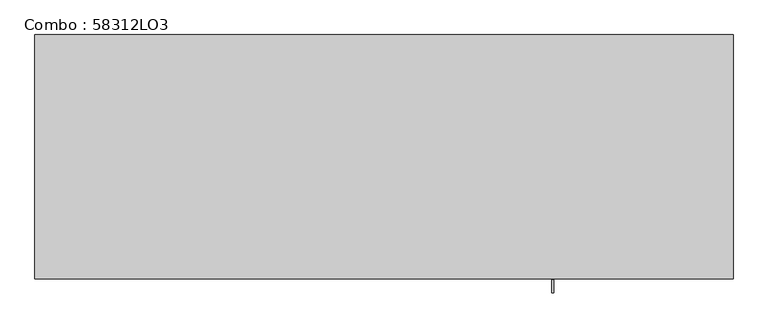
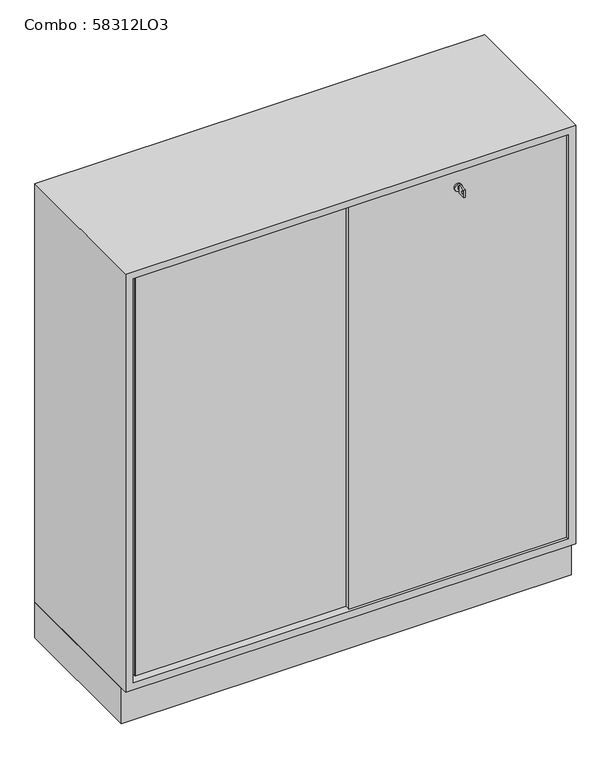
"""IFC4 building model written with IfcOpenShell, lengths in millimetres: furniture geometry, Combo : 58312LO3."""

from ifc_helpers import new_model, si_unit, point, frame, frame_2d, origin, origin_with_axes, place, context, project, spatial, polyline, circle_curve, trimmed, segment, composite_curve, outline, extrude, faceted_brep, source, transform, mapped, element, save


def combo_58312lo3_2c3f5c58(model_context):
    return source(origin(), model_context, "Body", "SolidModel", [
        extrude(outline(polyline([(-600.0, -400.0), (-600.0, 0.0), (600.0, 0.0), (600.0, -400.0), (-600.0, -400.0)])), origin_with_axes(), (0.0, 0.0, 1.0), 100.0),
        extrude(outline(composite_curve([segment(trimmed(circle_curve(frame_2d((1210.0, 290.0)), 10.0), [point((1210.0, 280.0))], [point((1210.0, 300.0))], False, "CARTESIAN"), True, "CONTINUOUS"), segment(trimmed(circle_curve(frame_2d((1210.0, 290.0)), 10.0), [point((1210.0, 300.0))], [point((1210.0, 280.0))], False, "CARTESIAN"), True, "CONTINUOUS")], self_intersect=False)), frame((0.0, -416.0, 0.0), z_axis=(0.0, 1.0, 0.0), x_axis=(0.0, 0.0, 1.0)), (0.0, 0.0, 1.0), 4.0),
        extrude(outline(polyline([(-444.0, 1199.014113), (-444.0, 1221.0), (-422.0, 1221.0), (-422.0, 1199.014113), (-444.0, 1199.014113)]), holes=[composite_curve([segment(trimmed(circle_curve(frame_2d((-437.75, 1210.0070565)), 3.2230706), [point((-437.75, 1213.2301271))], [point((-437.75, 1206.7839859))], True, "CARTESIAN"), True, "CONTINUOUS"), segment(trimmed(circle_curve(frame_2d((-437.75, 1210.0070565)), 3.2230706), [point((-437.75, 1206.7839859))], [point((-437.75, 1213.2301271))], True, "CARTESIAN"), True, "CONTINUOUS")], self_intersect=False)]), frame((288.0, 0.0, 0.0), z_axis=(1.0, 0.0, 0.0), x_axis=(0.0, 1.0, 0.0)), (0.0, 0.0, 1.0), 4.0416064),
        extrude(outline(polyline([(291.0416064, -422.0), (289.0, -422.0), (289.0, -416.0), (291.0416064, -416.0), (291.0416064, -422.0)])), frame((0.0, 0.0, 1206.014113), z_axis=(0.0, 0.0, 1.0), x_axis=(1.0, 0.0, 0.0)), (0.0, 0.0, 1.0), 7.985887),
        extrude(outline(polyline([(-578.0478528, -398.0), (-580.0, -398.0), (-580.0, -386.0), (580.0, -386.0), (580.0, -412.0), (0.0, -412.0), (0.0, -400.0), (8.9521472, -400.0), (8.9521472, -398.0), (-561.0478528, -398.0), (-563.0478528, -398.0), (-563.0478528, -388.0), (-578.0478528, -388.0), (-578.0478528, -398.0)])), frame((0.0, 0.0, 120.0), z_axis=(0.0, 0.0, 1.0), x_axis=(1.0, 0.0, 0.0)), (0.0, 0.0, 1.0), 1140.0),
        faceted_brep([(600.0, 0.0, 1280.0), (-600.0, 0.0, 1280.0), (-600.0, -420.0, 1280.0), (600.0, -420.0, 1280.0), (-600.0, 0.0, 100.0), (600.0, 0.0, 100.0), (600.0, -420.0, 100.0), (-600.0, -420.0, 100.0), (-580.0, -420.0, 1260.0), (580.0, -420.0, 1260.0), (580.0, -420.0, 120.0), (-580.0, -420.0, 120.0), (-580.0, -386.0, 1260.0), (580.0, -386.0, 1260.0), (-580.0, -386.0, 120.0), (580.0, -386.0, 120.0)], [[[0, 1, 2, 3]], [[4, 5, 6, 7]], [[1, 0, 5, 4]], [[2, 1, 4, 7]], [[3, 2, 7, 6], [8, 9, 10, 11]], [[0, 3, 6, 5]], [[12, 13, 9, 8]], [[14, 11, 10, 15]], [[9, 13, 15, 10]], [[12, 8, 11, 14]], [[13, 12, 14, 15]]]),
    ])


if __name__ == "__main__":
    model = new_model("IFC4")
    model_context = context("Model", 3, world=origin())
    ifc_project = project(units=[si_unit("LENGTHUNIT", "METRE", prefix="MILLI")], contexts=[model_context])
    site = spatial("IfcSite", under=ifc_project)
    building = spatial("IfcBuilding", under=site)
    placement = place(None, origin())
    combo_58312lo3_shape = combo_58312lo3_2c3f5c58(model_context)
    element("IfcFurniture", 1, ObjectType="Combo : 58312LO3", at=placement, inside=building, context=model_context, shape_type="MappedRepresentation", body=[
        mapped(combo_58312lo3_shape, transform((0.0, 0.0, 0.0), x_axis=(1.0, 0.0, 0.0), y_axis=(0.0, 1.0, 0.0), z_axis=(0.0, 0.0, 1.0))),
    ])
    save(model, "model.ifc")
